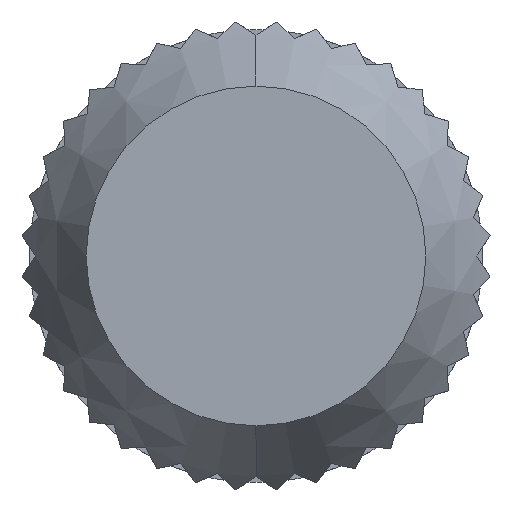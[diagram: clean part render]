
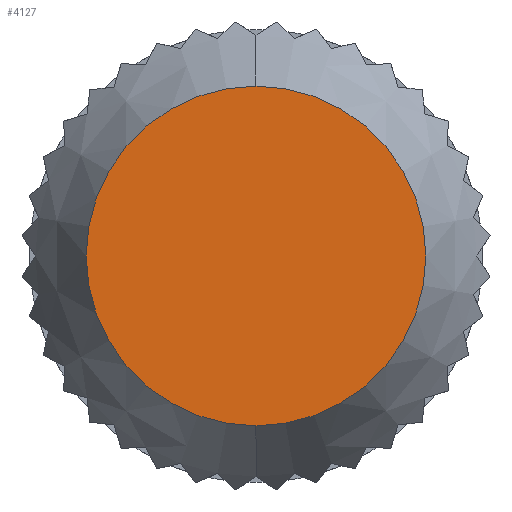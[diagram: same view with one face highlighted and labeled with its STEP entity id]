
A CAD part, front view. The second image highlights one B-rep face of the part: STEP entity #4127.
In plain terms, the highlighted planar face has unit normal (0, -1, 0).
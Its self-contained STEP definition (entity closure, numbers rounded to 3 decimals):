
#86 = ORIENTED_EDGE ( 'NONE', *, *, #3288, .T. ) ;
#397 = VERTEX_POINT ( 'NONE', #1176 ) ;
#766 = CARTESIAN_POINT ( 'NONE',  ( 0., -15., 3. ) ) ;
#949 = FACE_OUTER_BOUND ( 'NONE', #2344, .T. ) ;
#1031 = AXIS2_PLACEMENT_3D ( 'NONE', #2837, #1800, #2087 ) ;
#1176 = CARTESIAN_POINT ( 'NONE',  ( 0., -15., -3. ) ) ;
#1288 = AXIS2_PLACEMENT_3D ( 'NONE', #3146, #2401, #3518 ) ;
#1435 = CIRCLE ( 'NONE', #1031, 3. ) ;
#1800 = DIRECTION ( 'NONE',  ( 0., -1., 0. ) ) ;
#2063 = PLANE ( 'NONE',  #1288 ) ;
#2087 = DIRECTION ( 'NONE',  ( 0., 0., -1. ) ) ;
#2090 = AXIS2_PLACEMENT_3D ( 'NONE', #2645, #3388, #4095 ) ;
#2344 = EDGE_LOOP ( 'NONE', ( #86, #3730 ) ) ;
#2401 = DIRECTION ( 'NONE',  ( 0., -1., 0. ) ) ;
#2645 = CARTESIAN_POINT ( 'NONE',  ( 0., -15., 0. ) ) ;
#2837 = CARTESIAN_POINT ( 'NONE',  ( 0., -15., 0. ) ) ;
#3146 = CARTESIAN_POINT ( 'NONE',  ( 4., -15., 0. ) ) ;
#3288 = EDGE_CURVE ( 'NONE', #3713, #397, #3955, .T. ) ;
#3388 = DIRECTION ( 'NONE',  ( 0., -1., 0. ) ) ;
#3518 = DIRECTION ( 'NONE',  ( 0., 0., -1. ) ) ;
#3713 = VERTEX_POINT ( 'NONE', #766 ) ;
#3730 = ORIENTED_EDGE ( 'NONE', *, *, #3748, .T. ) ;
#3748 = EDGE_CURVE ( 'NONE', #397, #3713, #1435, .T. ) ;
#3955 = CIRCLE ( 'NONE', #2090, 3. ) ;
#4095 = DIRECTION ( 'NONE',  ( 0., 0., -1. ) ) ;
#4127 = ADVANCED_FACE ( 'NONE', ( #949 ), #2063, .T. ) ;
